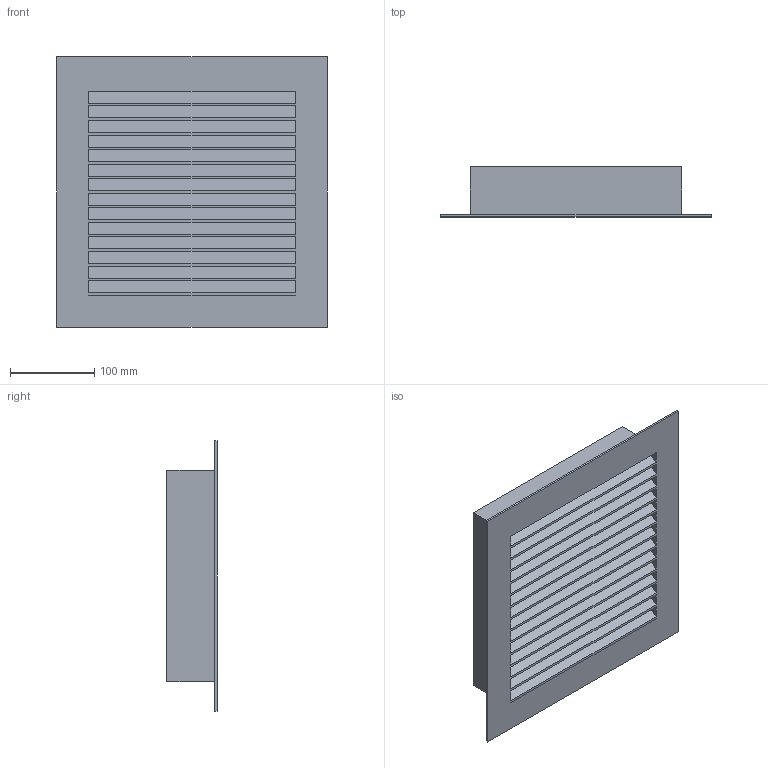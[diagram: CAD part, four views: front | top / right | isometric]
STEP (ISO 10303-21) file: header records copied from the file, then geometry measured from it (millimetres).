
FILE_DESCRIPTION(/* description */ (''),/* implementation_level */ '2;1');
FILE_NAME(/* name */ 'Z:\Output\WSG_250-00118-001.stp',/* time_stamp */ '2017-11-10T11:53:37+01:00',/* author */ ('pareshmistry'),/* organization */ (''),/* preprocessor_version */ 'ST-DEVELOPER v16.5',/* originating_system */ 'Autodesk Inventor 2017',/* authorisation */ '');
FILE_SCHEMA (('AUTOMOTIVE_DESIGN { 1 0 10303 214 3 1 1 }'));
Length unit declared in the file: millimetre
Products named in the file (1): WSG-1
Bounding box: 321 x 60 x 321 mm (x, y, z)
Volume: 609289.3 mm3; surface area: 462485.4 mm2
Topology: 1 solids, 1 shells, 61 faces, 207 edges, 138 vertices
Faces by surface type: plane 61
Entity records: 2287 total; most frequent: ORIENTED_EDGE 416, CARTESIAN_POINT 407, DIRECTION 331, LINE 207, VECTOR 207, EDGE_CURVE 207, VERTEX_POINT 138, EDGE_LOOP 78
